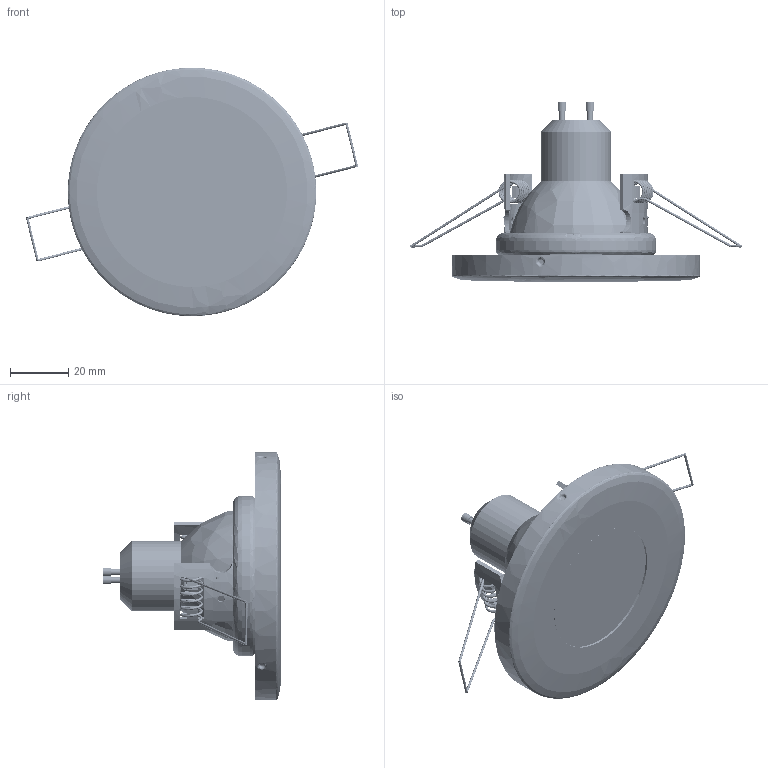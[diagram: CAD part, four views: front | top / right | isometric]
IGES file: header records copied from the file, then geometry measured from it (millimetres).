
Start section: SolidWorks IGES file using analytic representation for surfaces
Global section: file name: Z:\Modele 3D_WWW\_KOLEKCJE_WWW\JULIET-7663-7664\JULIET-7663-7664.IGS; native system: SolidWorks 2021; preprocessor: SolidWorks 2021; author: gabriela.tworek; date: 210824.131557; units: millimetre
Bounding box: 113.59 x 61.21 x 85 mm (x, y, z)
Surface area: 52332.9 mm2 (no closed solid volume)
Topology: 0 solids, 0 shells, 2272 faces, 32769 edges, 32757 vertices
Faces by surface type: revolution 1376, bspline 896
